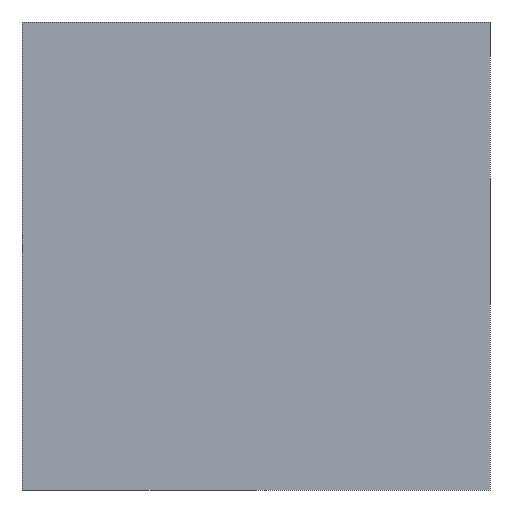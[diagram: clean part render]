
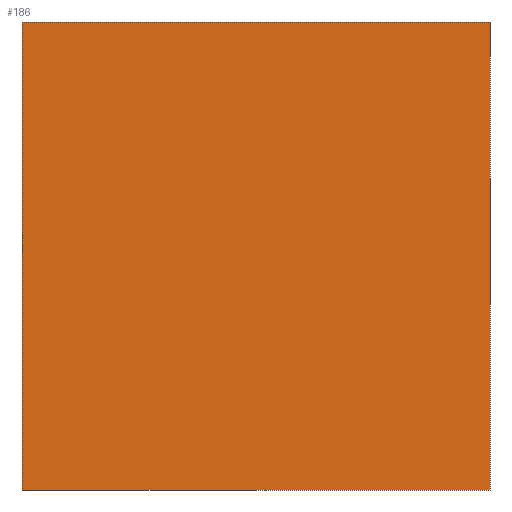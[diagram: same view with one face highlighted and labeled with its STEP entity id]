
A CAD part, left-side view. The second image highlights one B-rep face of the part: STEP entity #186.
In plain terms, the highlighted planar face has unit normal (-1, 0, 0).
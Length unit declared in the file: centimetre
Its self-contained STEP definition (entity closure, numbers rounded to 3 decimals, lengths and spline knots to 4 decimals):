
#32 = EDGE_CURVE ( 'NONE', #320, #106, #382, .T. ) ;
#48 = ORIENTED_EDGE ( 'NONE', *, *, #169, .T. ) ;
#62 = EDGE_LOOP ( 'NONE', ( #48, #397, #68, #296 ) ) ;
#68 = ORIENTED_EDGE ( 'NONE', *, *, #468, .F. ) ;
#83 = EDGE_CURVE ( 'NONE', #92, #425, #249, .T. ) ;
#89 = VECTOR ( 'NONE', #205, 100. ) ;
#92 = VERTEX_POINT ( 'NONE', #377 ) ;
#106 = VERTEX_POINT ( 'NONE', #486 ) ;
#126 = DIRECTION ( 'NONE',  ( 0., 0., -1. ) ) ;
#147 = DIRECTION ( 'NONE',  ( 0., -1., 0. ) ) ;
#169 = EDGE_CURVE ( 'NONE', #106, #425, #365, .T. ) ;
#176 = CARTESIAN_POINT ( 'NONE',  ( 0., 1000., 1000. ) ) ;
#186 = ADVANCED_FACE ( 'NONE', ( #472 ), #478, .F. ) ;
#205 = DIRECTION ( 'NONE',  ( 0., 0., -1. ) ) ;
#249 = LINE ( 'NONE', #414, #89 ) ;
#251 = LINE ( 'NONE', #505, #567 ) ;
#262 = CARTESIAN_POINT ( 'NONE',  ( 0., 0., 0. ) ) ;
#263 = CARTESIAN_POINT ( 'NONE',  ( 0., 1000., 1000. ) ) ;
#296 = ORIENTED_EDGE ( 'NONE', *, *, #32, .T. ) ;
#320 = VERTEX_POINT ( 'NONE', #263 ) ;
#355 = AXIS2_PLACEMENT_3D ( 'NONE', #176, #428, #126 ) ;
#365 = LINE ( 'NONE', #446, #518 ) ;
#373 = DIRECTION ( 'NONE',  ( 0., 0., -1. ) ) ;
#377 = CARTESIAN_POINT ( 'NONE',  ( 0., 0., 1000. ) ) ;
#382 = LINE ( 'NONE', #553, #475 ) ;
#397 = ORIENTED_EDGE ( 'NONE', *, *, #83, .F. ) ;
#414 = CARTESIAN_POINT ( 'NONE',  ( 0., 0., 1000. ) ) ;
#419 = DIRECTION ( 'NONE',  ( 0., -1., 0. ) ) ;
#425 = VERTEX_POINT ( 'NONE', #262 ) ;
#428 = DIRECTION ( 'NONE',  ( 1., 0., 0. ) ) ;
#446 = CARTESIAN_POINT ( 'NONE',  ( 0., 1000., 0. ) ) ;
#468 = EDGE_CURVE ( 'NONE', #320, #92, #251, .T. ) ;
#472 = FACE_OUTER_BOUND ( 'NONE', #62, .T. ) ;
#475 = VECTOR ( 'NONE', #373, 100. ) ;
#478 = PLANE ( 'NONE',  #355 ) ;
#486 = CARTESIAN_POINT ( 'NONE',  ( 0., 1000., 0. ) ) ;
#505 = CARTESIAN_POINT ( 'NONE',  ( 0., 1000., 1000. ) ) ;
#518 = VECTOR ( 'NONE', #147, 100. ) ;
#553 = CARTESIAN_POINT ( 'NONE',  ( 0., 1000., 1000. ) ) ;
#567 = VECTOR ( 'NONE', #419, 100. ) ;
